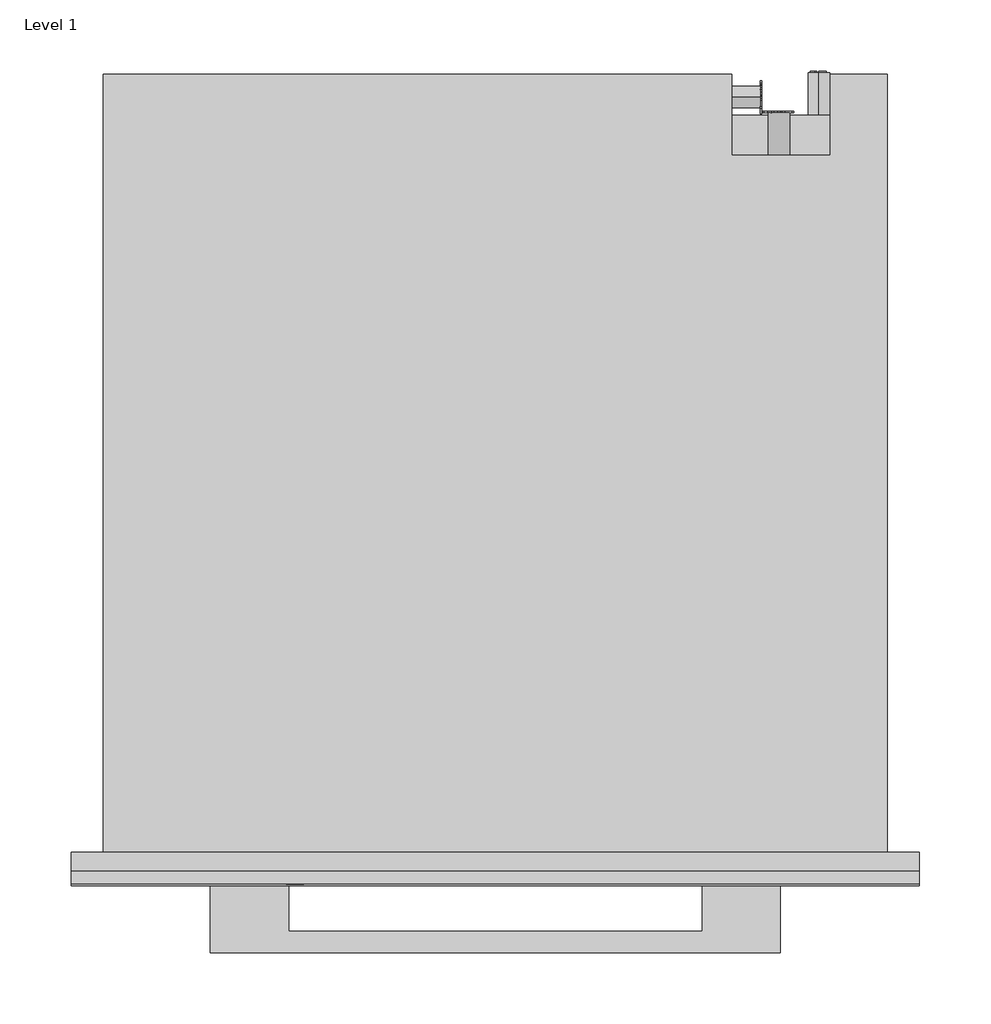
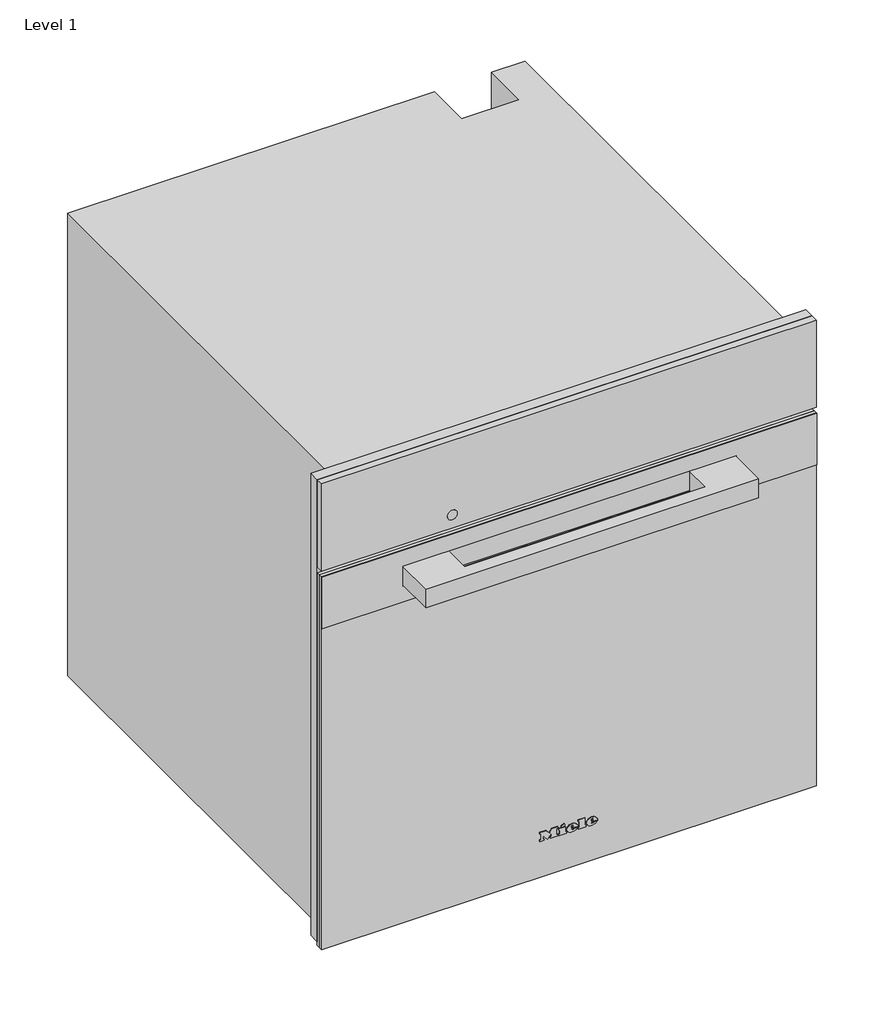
# One storey: 1 proxy.
"""IFC4 building model written with IfcOpenShell, lengths in millimetres."""

from ifc_helpers import new_model, si_unit, origin, place, context, project, spatial, transform, mapped, element, save
from components import specialty_equipment_59f3d35e

model = new_model("IFC4")

# Units and contexts
model_context = context("Model", 3, world=origin())
ifc_project = project(units=[si_unit("LENGTHUNIT", "METRE", prefix="MILLI")], contexts=[model_context])

# Site, building, storey
site = spatial("IfcSite", under=ifc_project)
building = spatial("IfcBuilding", under=site)
storey = spatial("IfcBuildingStorey", under=building, Name="Level 1", Elevation=0.0)

# Proxy
placement = place(None, origin())
specialty_equipment_shape = specialty_equipment_59f3d35e(model_context)
element("IfcBuildingElementProxy", 1, Name="11107330_D_DGC7865_EDST-CLST : 23786543_D_11107330_DGC7865_EDST-CLST", ObjectType="11107330_D_DGC7865_EDST-CLST : 23786543_D_11107330_DGC7865_EDST-CLST", at=placement, inside=storey, context=model_context, shape_type="MappedRepresentation", body=[
    mapped(specialty_equipment_shape, transform((0.0, 0.0, 0.0), x_axis=(1.0, 0.0, 0.0), y_axis=(0.0, 1.0, 0.0), z_axis=(0.0, 0.0, 1.0))),
])

save(model, "model.ifc")
